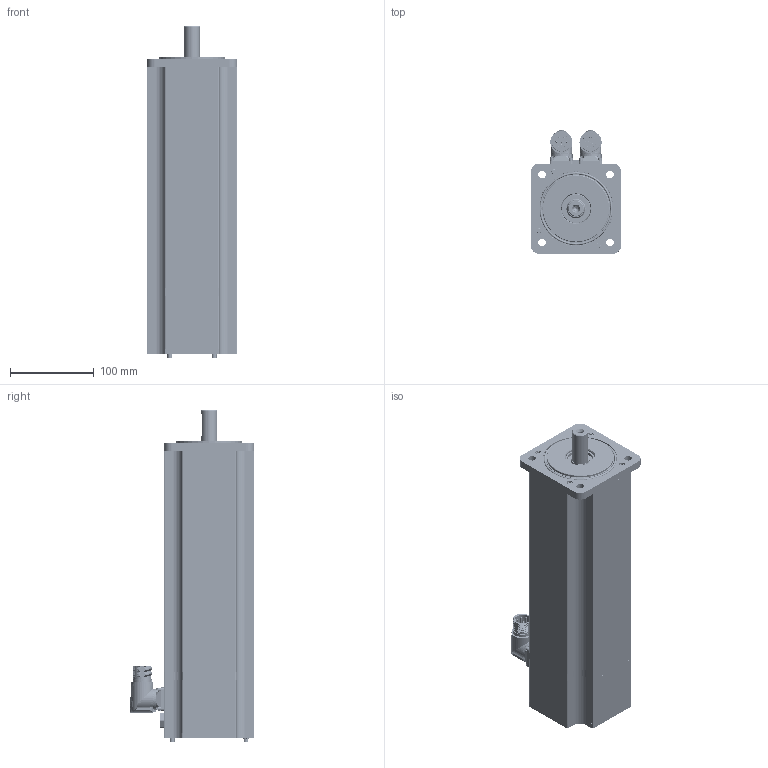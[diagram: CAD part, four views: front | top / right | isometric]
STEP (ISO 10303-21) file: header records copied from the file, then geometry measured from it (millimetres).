
FILE_DESCRIPTION (( 'STEP AP203' ), '1' );
FILE_NAME ('073712A.step', '2021-07-19T13:18:04', ( '' ), ( '' ), 'SwSTEP 2.0', 'SolidWorks 2019', '' );
FILE_SCHEMA (( 'CONFIG_CONTROL_DESIGN' ));
Products named in the file (1): 073712A
Bounding box: 108 x 148.97 x 397.63 mm (x, y, z)
Volume: 2837368 mm3; surface area: 708806.8 mm2
Topology: 212 solids, 212 shells, 10868 faces, 28516 edges, 18503 vertices
Faces by surface type: plane 4877, cylinder 3361, bspline 1413, cone 633, torus 500, sphere 84
Entity records: 586975 total; most frequent: CARTESIAN_POINT 331339, ORIENTED_EDGE 56456, DIRECTION 48013, EDGE_CURVE 28228, VERTEX_POINT 18429, AXIS2_PLACEMENT_3D 16156, VECTOR 15701, LINE 15701
